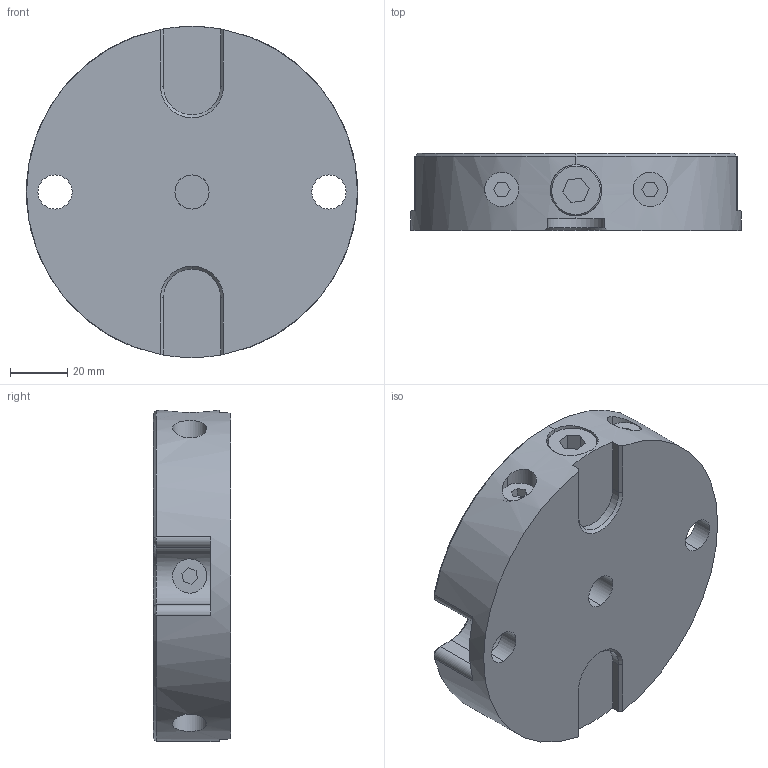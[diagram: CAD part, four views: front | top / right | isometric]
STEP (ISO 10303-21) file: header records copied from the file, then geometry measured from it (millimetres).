
FILE_DESCRIPTION (( 'STEP AP203' ), '1' );
FILE_NAME ('45750.STEP', '2018-10-29T09:54:31', ( '' ), ( '' ), 'SwSTEP 2.0', 'SolidWorks 2015', '' );
FILE_SCHEMA (( 'CONFIG_CONTROL_DESIGN' ));
Length unit declared in the file: millimetre
Products named in the file (1): 45750
Bounding box: 116 x 27 x 116 mm (x, y, z)
Volume: 221070.8 mm3; surface area: 49885.2 mm2
Topology: 8 solids, 8 shells, 224 faces, 520 edges, 311 vertices
Faces by surface type: plane 93, cylinder 75, cone 40, torus 16
Entity records: 7748 total; most frequent: CARTESIAN_POINT 2561, DIRECTION 1086, ORIENTED_EDGE 1040, EDGE_CURVE 520, AXIS2_PLACEMENT_3D 397, VERTEX_POINT 311, LINE 292, VECTOR 292
